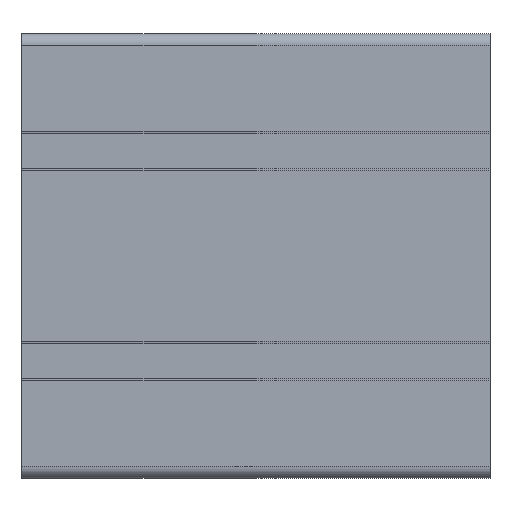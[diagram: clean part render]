
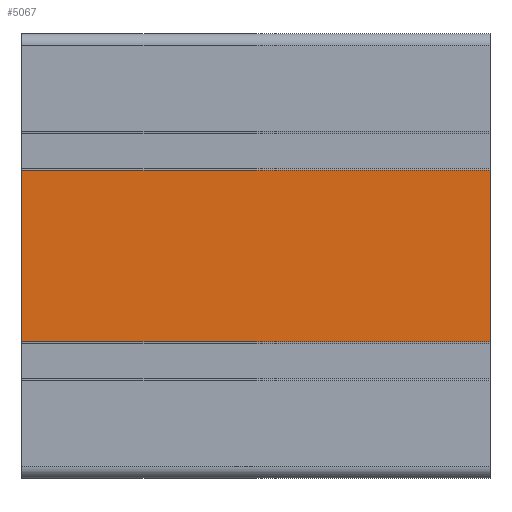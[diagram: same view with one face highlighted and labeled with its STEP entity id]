
A CAD part, front view. The second image highlights one B-rep face of the part: STEP entity #5067.
In plain terms, the highlighted planar face has unit normal (0, -1, 0).
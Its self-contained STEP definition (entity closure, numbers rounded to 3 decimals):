
#96 = LINE ( 'NONE', #3487, #4761 ) ;
#116 = ORIENTED_EDGE ( 'NONE', *, *, #2162, .T. ) ;
#424 = DIRECTION ( 'NONE',  ( -1., 0., 0. ) ) ;
#448 = CARTESIAN_POINT ( 'NONE',  ( -40.816, -5.102, -18.35 ) ) ;
#457 = CARTESIAN_POINT ( 'NONE',  ( 59.184, -5.102, 18.35 ) ) ;
#470 = DIRECTION ( 'NONE',  ( 0., 1., 0. ) ) ;
#556 = LINE ( 'NONE', #1170, #1945 ) ;
#754 = VERTEX_POINT ( 'NONE', #4171 ) ;
#875 = CARTESIAN_POINT ( 'NONE',  ( -40.816, -5.102, 18.35 ) ) ;
#1170 = CARTESIAN_POINT ( 'NONE',  ( 59.184, -5.102, 18.35 ) ) ;
#1353 = VERTEX_POINT ( 'NONE', #3081 ) ;
#1649 = AXIS2_PLACEMENT_3D ( 'NONE', #1671, #470, #2845 ) ;
#1671 = CARTESIAN_POINT ( 'NONE',  ( 59.184, -5.102, 18.35 ) ) ;
#1706 = PLANE ( 'NONE',  #1649 ) ;
#1945 = VECTOR ( 'NONE', #2336, 1000. ) ;
#2071 = CARTESIAN_POINT ( 'NONE',  ( 59.184, -5.102, -18.35 ) ) ;
#2162 = EDGE_CURVE ( 'NONE', #3186, #754, #96, .T. ) ;
#2185 = LINE ( 'NONE', #875, #4748 ) ;
#2283 = EDGE_CURVE ( 'NONE', #3186, #1353, #556, .T. ) ;
#2336 = DIRECTION ( 'NONE',  ( 0., 0., -1. ) ) ;
#2621 = ORIENTED_EDGE ( 'NONE', *, *, #4256, .F. ) ;
#2769 = EDGE_CURVE ( 'NONE', #754, #5095, #2185, .T. ) ;
#2845 = DIRECTION ( 'NONE',  ( 0., 0., 1. ) ) ;
#3066 = FACE_OUTER_BOUND ( 'NONE', #4052, .T. ) ;
#3081 = CARTESIAN_POINT ( 'NONE',  ( 59.184, -5.102, -18.35 ) ) ;
#3186 = VERTEX_POINT ( 'NONE', #457 ) ;
#3273 = LINE ( 'NONE', #2071, #3467 ) ;
#3467 = VECTOR ( 'NONE', #424, 1000. ) ;
#3487 = CARTESIAN_POINT ( 'NONE',  ( 59.184, -5.102, 18.35 ) ) ;
#3686 = DIRECTION ( 'NONE',  ( 0., 0., -1. ) ) ;
#3736 = ORIENTED_EDGE ( 'NONE', *, *, #2283, .F. ) ;
#4052 = EDGE_LOOP ( 'NONE', ( #4435, #2621, #3736, #116 ) ) ;
#4171 = CARTESIAN_POINT ( 'NONE',  ( -40.816, -5.102, 18.35 ) ) ;
#4256 = EDGE_CURVE ( 'NONE', #1353, #5095, #3273, .T. ) ;
#4311 = DIRECTION ( 'NONE',  ( -1., 0., 0. ) ) ;
#4435 = ORIENTED_EDGE ( 'NONE', *, *, #2769, .T. ) ;
#4748 = VECTOR ( 'NONE', #3686, 1000. ) ;
#4761 = VECTOR ( 'NONE', #4311, 1000. ) ;
#5067 = ADVANCED_FACE ( 'NONE', ( #3066 ), #1706, .F. ) ;
#5095 = VERTEX_POINT ( 'NONE', #448 ) ;
